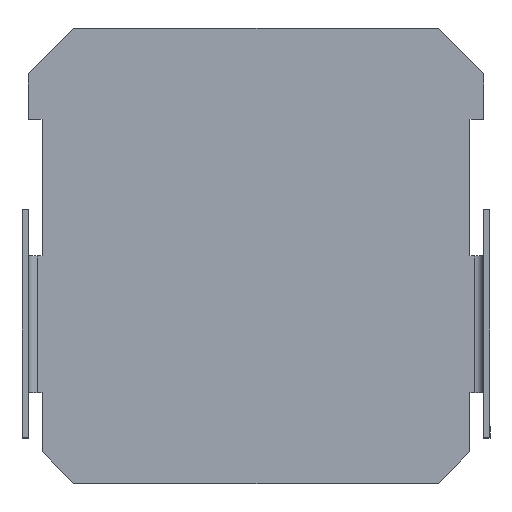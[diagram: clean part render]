
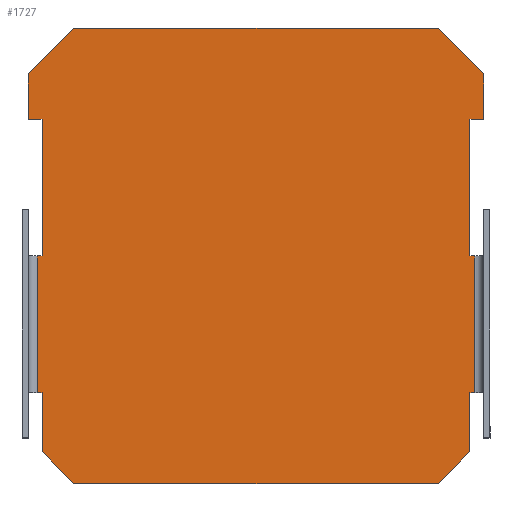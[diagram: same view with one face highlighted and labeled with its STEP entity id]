
A CAD part, top view. The second image highlights one B-rep face of the part: STEP entity #1727.
In plain terms, the highlighted planar face has unit normal (0, 0, 1).
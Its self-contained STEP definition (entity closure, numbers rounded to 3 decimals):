
#5 = AXIS2_PLACEMENT_3D ( 'NONE', #383, #99, #1452 ) ;
#18 = LINE ( 'NONE', #296, #409 ) ;
#22 = CARTESIAN_POINT ( 'NONE',  ( -25., 40., 0.7 ) ) ;
#25 = LINE ( 'NONE', #1408, #148 ) ;
#28 = ORIENTED_EDGE ( 'NONE', *, *, #1488, .T. ) ;
#40 = LINE ( 'NONE', #1399, #812 ) ;
#41 = VERTEX_POINT ( 'NONE', #87 ) ;
#53 = ORIENTED_EDGE ( 'NONE', *, *, #846, .F. ) ;
#54 = LINE ( 'NONE', #590, #949 ) ;
#87 = CARTESIAN_POINT ( 'NONE',  ( 25., 40., 0.7 ) ) ;
#99 = DIRECTION ( 'NONE',  ( 0., 0., -1. ) ) ;
#137 = CARTESIAN_POINT ( 'NONE',  ( 23.5, 25., 0.7 ) ) ;
#148 = VECTOR ( 'NONE', #1678, 1000. ) ;
#163 = DIRECTION ( 'NONE',  ( -1., 0., 0. ) ) ;
#187 = VERTEX_POINT ( 'NONE', #1071 ) ;
#188 = DIRECTION ( 'NONE',  ( 0., -1., 0. ) ) ;
#194 = LINE ( 'NONE', #1428, #814 ) ;
#199 = LINE ( 'NONE', #614, #672 ) ;
#211 = VECTOR ( 'NONE', #999, 1000. ) ;
#244 = ORIENTED_EDGE ( 'NONE', *, *, #1161, .T. ) ;
#296 = CARTESIAN_POINT ( 'NONE',  ( 26.5, 40., 0.7 ) ) ;
#307 = EDGE_CURVE ( 'NONE', #1456, #875, #1402, .T. ) ;
#313 = VERTEX_POINT ( 'NONE', #1254 ) ;
#317 = VERTEX_POINT ( 'NONE', #440 ) ;
#319 = CARTESIAN_POINT ( 'NONE',  ( -24., 0., 0.7 ) ) ;
#370 = ORIENTED_EDGE ( 'NONE', *, *, #912, .F. ) ;
#374 = FACE_OUTER_BOUND ( 'NONE', #1650, .T. ) ;
#380 = CARTESIAN_POINT ( 'NONE',  ( -25., 45., 0.7 ) ) ;
#383 = CARTESIAN_POINT ( 'NONE',  ( -75., 0., 0.7 ) ) ;
#404 = ORIENTED_EDGE ( 'NONE', *, *, #534, .F. ) ;
#409 = VECTOR ( 'NONE', #163, 1000. ) ;
#429 = VERTEX_POINT ( 'NONE', #521 ) ;
#440 = CARTESIAN_POINT ( 'NONE',  ( 25., 45., 0.7 ) ) ;
#449 = ORIENTED_EDGE ( 'NONE', *, *, #1223, .T. ) ;
#461 = VERTEX_POINT ( 'NONE', #516 ) ;
#463 = VERTEX_POINT ( 'NONE', #1457 ) ;
#472 = LINE ( 'NONE', #319, #1410 ) ;
#474 = VERTEX_POINT ( 'NONE', #508 ) ;
#477 = LINE ( 'NONE', #1673, #756 ) ;
#483 = VERTEX_POINT ( 'NONE', #928 ) ;
#490 = EDGE_CURVE ( 'NONE', #483, #474, #791, .T. ) ;
#505 = ORIENTED_EDGE ( 'NONE', *, *, #662, .T. ) ;
#508 = CARTESIAN_POINT ( 'NONE',  ( -25., 45., 0.7 ) ) ;
#516 = CARTESIAN_POINT ( 'NONE',  ( 20., 50., 0.7 ) ) ;
#521 = CARTESIAN_POINT ( 'NONE',  ( 20., 0., 0.7 ) ) ;
#534 = EDGE_CURVE ( 'NONE', #313, #1339, #544, .T. ) ;
#536 = ORIENTED_EDGE ( 'NONE', *, *, #1174, .T. ) ;
#542 = LINE ( 'NONE', #699, #211 ) ;
#544 = LINE ( 'NONE', #1082, #1177 ) ;
#568 = LINE ( 'NONE', #137, #835 ) ;
#574 = CARTESIAN_POINT ( 'NONE',  ( -20., 0., 0.7 ) ) ;
#590 = CARTESIAN_POINT ( 'NONE',  ( 75., 0., 0.7 ) ) ;
#608 = CARTESIAN_POINT ( 'NONE',  ( -25., 30., 0.7 ) ) ;
#614 = CARTESIAN_POINT ( 'NONE',  ( 24., 0., 0.7 ) ) ;
#619 = DIRECTION ( 'NONE',  ( -1., 0., 0. ) ) ;
#621 = LINE ( 'NONE', #608, #1233 ) ;
#662 = EDGE_CURVE ( 'NONE', #429, #187, #1461, .T. ) ;
#672 = VECTOR ( 'NONE', #1424, 1000. ) ;
#681 = CARTESIAN_POINT ( 'NONE',  ( 25., 30., 0.7 ) ) ;
#699 = CARTESIAN_POINT ( 'NONE',  ( -25., 5., 0.7 ) ) ;
#703 = DIRECTION ( 'NONE',  ( 0., -1., 0. ) ) ;
#756 = VECTOR ( 'NONE', #1294, 1000. ) ;
#757 = LINE ( 'NONE', #1000, #1063 ) ;
#760 = DIRECTION ( 'NONE',  ( -1., 0., 0. ) ) ;
#789 = VERTEX_POINT ( 'NONE', #1122 ) ;
#791 = LINE ( 'NONE', #380, #945 ) ;
#811 = ORIENTED_EDGE ( 'NONE', *, *, #307, .T. ) ;
#812 = VECTOR ( 'NONE', #188, 1000. ) ;
#814 = VECTOR ( 'NONE', #619, 1000. ) ;
#829 = CARTESIAN_POINT ( 'NONE',  ( 23.5, 40., 0.7 ) ) ;
#835 = VECTOR ( 'NONE', #1242, 1000. ) ;
#836 = EDGE_CURVE ( 'NONE', #41, #317, #1374, .T. ) ;
#838 = VECTOR ( 'NONE', #703, 1000. ) ;
#846 = EDGE_CURVE ( 'NONE', #1097, #313, #568, .T. ) ;
#858 = DIRECTION ( 'NONE',  ( 0., 1., 0. ) ) ;
#875 = VERTEX_POINT ( 'NONE', #1141 ) ;
#882 = EDGE_CURVE ( 'NONE', #317, #461, #757, .T. ) ;
#888 = DIRECTION ( 'NONE',  ( -0.707, 0.707, 0. ) ) ;
#912 = EDGE_CURVE ( 'NONE', #789, #875, #472, .T. ) ;
#921 = VECTOR ( 'NONE', #1758, 1000. ) ;
#928 = CARTESIAN_POINT ( 'NONE',  ( -20., 50., 0.7 ) ) ;
#945 = VECTOR ( 'NONE', #1197, 1000. ) ;
#949 = VECTOR ( 'NONE', #1143, 1000. ) ;
#950 = DIRECTION ( 'NONE',  ( 1., 0., 0. ) ) ;
#968 = CARTESIAN_POINT ( 'NONE',  ( 24., 10., 0.7 ) ) ;
#971 = VERTEX_POINT ( 'NONE', #1277 ) ;
#988 = CARTESIAN_POINT ( 'NONE',  ( -26.5, 10., 0.7 ) ) ;
#999 = DIRECTION ( 'NONE',  ( -0.707, 0.707, 0. ) ) ;
#1000 = CARTESIAN_POINT ( 'NONE',  ( 25., 45., 0.7 ) ) ;
#1003 = ORIENTED_EDGE ( 'NONE', *, *, #882, .T. ) ;
#1007 = VECTOR ( 'NONE', #1147, 1000. ) ;
#1020 = EDGE_CURVE ( 'NONE', #1438, #463, #1663, .T. ) ;
#1021 = CARTESIAN_POINT ( 'NONE',  ( -23.5, 25., 0.7 ) ) ;
#1023 = LINE ( 'NONE', #1431, #1749 ) ;
#1044 = EDGE_CURVE ( 'NONE', #41, #1097, #18, .T. ) ;
#1063 = VECTOR ( 'NONE', #888, 1000. ) ;
#1071 = CARTESIAN_POINT ( 'NONE',  ( 23.5, 3.5, 0.7 ) ) ;
#1082 = CARTESIAN_POINT ( 'NONE',  ( 26.5, 25., 0.7 ) ) ;
#1097 = VERTEX_POINT ( 'NONE', #829 ) ;
#1106 = EDGE_CURVE ( 'NONE', #1376, #1287, #477, .T. ) ;
#1122 = CARTESIAN_POINT ( 'NONE',  ( -24., 10., 0.7 ) ) ;
#1141 = CARTESIAN_POINT ( 'NONE',  ( -24., 25., 0.7 ) ) ;
#1143 = DIRECTION ( 'NONE',  ( 1., 0., 0. ) ) ;
#1147 = DIRECTION ( 'NONE',  ( 1., 0., 0. ) ) ;
#1160 = EDGE_CURVE ( 'NONE', #971, #187, #40, .T. ) ;
#1161 = EDGE_CURVE ( 'NONE', #461, #483, #1023, .T. ) ;
#1174 = EDGE_CURVE ( 'NONE', #789, #1438, #1694, .T. ) ;
#1177 = VECTOR ( 'NONE', #950, 1000. ) ;
#1197 = DIRECTION ( 'NONE',  ( -0.707, -0.707, 0. ) ) ;
#1217 = CARTESIAN_POINT ( 'NONE',  ( 25., 5., 0.7 ) ) ;
#1223 = EDGE_CURVE ( 'NONE', #474, #1376, #621, .T. ) ;
#1225 = DIRECTION ( 'NONE',  ( 0., 1., 0. ) ) ;
#1233 = VECTOR ( 'NONE', #1530, 1000. ) ;
#1242 = DIRECTION ( 'NONE',  ( 0., -1., 0. ) ) ;
#1254 = CARTESIAN_POINT ( 'NONE',  ( 23.5, 25., 0.7 ) ) ;
#1257 = VECTOR ( 'NONE', #1423, 1000. ) ;
#1260 = ORIENTED_EDGE ( 'NONE', *, *, #490, .T. ) ;
#1272 = ORIENTED_EDGE ( 'NONE', *, *, #1344, .F. ) ;
#1277 = CARTESIAN_POINT ( 'NONE',  ( 23.5, 10., 0.7 ) ) ;
#1287 = VERTEX_POINT ( 'NONE', #1735 ) ;
#1294 = DIRECTION ( 'NONE',  ( 1., 0., 0. ) ) ;
#1324 = VECTOR ( 'NONE', #1225, 1000. ) ;
#1332 = ORIENTED_EDGE ( 'NONE', *, *, #1414, .F. ) ;
#1339 = VERTEX_POINT ( 'NONE', #1761 ) ;
#1344 = EDGE_CURVE ( 'NONE', #1369, #463, #542, .T. ) ;
#1355 = CARTESIAN_POINT ( 'NONE',  ( -23.5, -5., 0.7 ) ) ;
#1369 = VERTEX_POINT ( 'NONE', #574 ) ;
#1374 = LINE ( 'NONE', #681, #1324 ) ;
#1376 = VERTEX_POINT ( 'NONE', #22 ) ;
#1378 = VERTEX_POINT ( 'NONE', #968 ) ;
#1395 = ORIENTED_EDGE ( 'NONE', *, *, #1458, .T. ) ;
#1399 = CARTESIAN_POINT ( 'NONE',  ( 23.5, -5., 0.7 ) ) ;
#1402 = LINE ( 'NONE', #1696, #1257 ) ;
#1408 = CARTESIAN_POINT ( 'NONE',  ( -23.5, 25., 0.7 ) ) ;
#1410 = VECTOR ( 'NONE', #858, 1000. ) ;
#1414 = EDGE_CURVE ( 'NONE', #1339, #1378, #199, .T. ) ;
#1423 = DIRECTION ( 'NONE',  ( -1., 0., 0. ) ) ;
#1424 = DIRECTION ( 'NONE',  ( 0., -1., 0. ) ) ;
#1428 = CARTESIAN_POINT ( 'NONE',  ( 26.5, 10., 0.7 ) ) ;
#1429 = EDGE_CURVE ( 'NONE', #1378, #971, #194, .T. ) ;
#1431 = CARTESIAN_POINT ( 'NONE',  ( -20., 50., 0.7 ) ) ;
#1438 = VERTEX_POINT ( 'NONE', #1565 ) ;
#1452 = DIRECTION ( 'NONE',  ( -1., 0., 0. ) ) ;
#1456 = VERTEX_POINT ( 'NONE', #1021 ) ;
#1457 = CARTESIAN_POINT ( 'NONE',  ( -23.5, 3.5, 0.7 ) ) ;
#1458 = EDGE_CURVE ( 'NONE', #1369, #429, #54, .T. ) ;
#1461 = LINE ( 'NONE', #1217, #921 ) ;
#1488 = EDGE_CURVE ( 'NONE', #1287, #1456, #25, .T. ) ;
#1530 = DIRECTION ( 'NONE',  ( 0., -1., 0. ) ) ;
#1539 = ORIENTED_EDGE ( 'NONE', *, *, #1044, .F. ) ;
#1557 = ORIENTED_EDGE ( 'NONE', *, *, #1106, .T. ) ;
#1565 = CARTESIAN_POINT ( 'NONE',  ( -23.5, 10., 0.7 ) ) ;
#1600 = PLANE ( 'NONE',  #5 ) ;
#1613 = ORIENTED_EDGE ( 'NONE', *, *, #1160, .F. ) ;
#1650 = EDGE_LOOP ( 'NONE', ( #1332, #404, #53, #1539, #1703, #1003, #244, #1260, #449, #1557, #28, #811, #370, #536, #1679, #1272, #1395, #505, #1613, #1716 ) ) ;
#1663 = LINE ( 'NONE', #1355, #838 ) ;
#1673 = CARTESIAN_POINT ( 'NONE',  ( -26.5, 40., 0.7 ) ) ;
#1678 = DIRECTION ( 'NONE',  ( 0., -1., 0. ) ) ;
#1679 = ORIENTED_EDGE ( 'NONE', *, *, #1020, .T. ) ;
#1694 = LINE ( 'NONE', #988, #1007 ) ;
#1696 = CARTESIAN_POINT ( 'NONE',  ( -26.5, 25., 0.7 ) ) ;
#1703 = ORIENTED_EDGE ( 'NONE', *, *, #836, .T. ) ;
#1716 = ORIENTED_EDGE ( 'NONE', *, *, #1429, .F. ) ;
#1727 = ADVANCED_FACE ( 'NONE', ( #374 ), #1600, .F. ) ;
#1735 = CARTESIAN_POINT ( 'NONE',  ( -23.5, 40., 0.7 ) ) ;
#1749 = VECTOR ( 'NONE', #760, 1000. ) ;
#1758 = DIRECTION ( 'NONE',  ( 0.707, 0.707, 0. ) ) ;
#1761 = CARTESIAN_POINT ( 'NONE',  ( 24., 25., 0.7 ) ) ;
